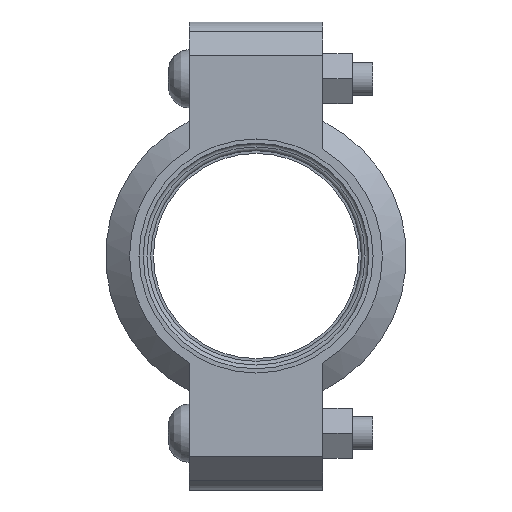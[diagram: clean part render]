
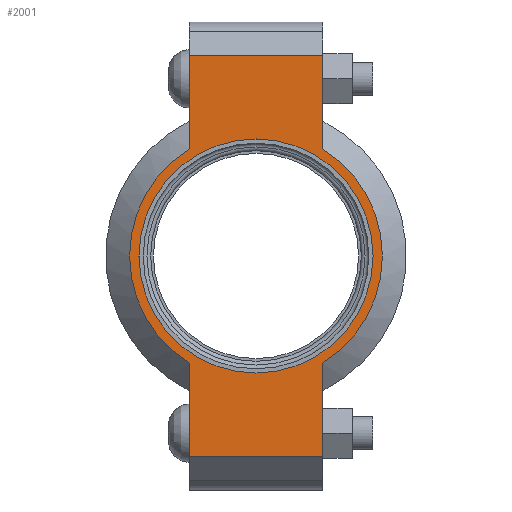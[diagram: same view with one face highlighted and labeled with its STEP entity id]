
A CAD part, left-side view. The second image highlights one B-rep face of the part: STEP entity #2001.
In plain terms, the highlighted planar face has unit normal (-1, 0, 0) as drawn and (0, 0, 1) by its records, which use the part's own axes.
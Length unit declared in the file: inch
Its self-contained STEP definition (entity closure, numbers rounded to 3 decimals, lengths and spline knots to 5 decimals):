
#134=LINE('',#3570,#233);
#142=LINE('',#3606,#241);
#149=LINE('',#3627,#248);
#158=LINE('',#3659,#257);
#159=LINE('',#3663,#258);
#160=LINE('',#3665,#259);
#233=VECTOR('',#2932,0.3937);
#241=VECTOR('',#2948,0.3937);
#248=VECTOR('',#2967,0.3937);
#257=VECTOR('',#2992,0.3937);
#258=VECTOR('',#2997,0.3937);
#259=VECTOR('',#2998,0.3937);
#319=FACE_BOUND('',#589,.T.);
#365=PLANE('',#2366);
#461=FACE_OUTER_BOUND('',#588,.T.);
#588=EDGE_LOOP('',(#1730,#1731,#1732,#1733,#1734,#1735,#1736,#1737));
#589=EDGE_LOOP('',(#1738));
#736=CIRCLE('',#2308,1.75);
#762=CIRCLE('',#2367,1.89);
#763=CIRCLE('',#2368,1.89);
#887=VERTEX_POINT('',#3386);
#930=VERTEX_POINT('',#3567);
#931=VERTEX_POINT('',#3569);
#942=VERTEX_POINT('',#3601);
#943=VERTEX_POINT('',#3605);
#950=VERTEX_POINT('',#3624);
#951=VERTEX_POINT('',#3626);
#961=VERTEX_POINT('',#3662);
#962=VERTEX_POINT('',#3664);
#1124=EDGE_CURVE('',#887,#887,#736,.T.);
#1185=EDGE_CURVE('',#931,#930,#134,.T.);
#1199=EDGE_CURVE('',#943,#942,#142,.T.);
#1209=EDGE_CURVE('',#951,#950,#149,.T.);
#1224=EDGE_CURVE('',#943,#930,#158,.T.);
#1225=EDGE_CURVE('',#942,#951,#762,.T.);
#1226=EDGE_CURVE('',#961,#950,#159,.T.);
#1227=EDGE_CURVE('',#961,#962,#160,.T.);
#1228=EDGE_CURVE('',#962,#931,#763,.T.);
#1730=ORIENTED_EDGE('',*,*,#1224,.F.);
#1731=ORIENTED_EDGE('',*,*,#1199,.T.);
#1732=ORIENTED_EDGE('',*,*,#1225,.T.);
#1733=ORIENTED_EDGE('',*,*,#1209,.T.);
#1734=ORIENTED_EDGE('',*,*,#1226,.F.);
#1735=ORIENTED_EDGE('',*,*,#1227,.T.);
#1736=ORIENTED_EDGE('',*,*,#1228,.T.);
#1737=ORIENTED_EDGE('',*,*,#1185,.T.);
#1738=ORIENTED_EDGE('',*,*,#1124,.T.);
#2001=ADVANCED_FACE('',(#461,#319),#365,.T.);
#2308=AXIS2_PLACEMENT_3D('',#3388,#2808,#2809);
#2366=AXIS2_PLACEMENT_3D('',#3660,#2993,#2994);
#2367=AXIS2_PLACEMENT_3D('',#3661,#2995,#2996);
#2368=AXIS2_PLACEMENT_3D('',#3666,#2999,#3000);
#2808=DIRECTION('center_axis',(0.,0.,-1.));
#2809=DIRECTION('ref_axis',(1.,0.,0.));
#2932=DIRECTION('',(1.,0.,0.));
#2948=DIRECTION('',(-1.,0.,0.));
#2967=DIRECTION('',(-1.,0.,0.));
#2992=DIRECTION('',(0.,-1.,0.));
#2993=DIRECTION('center_axis',(0.,0.,1.));
#2994=DIRECTION('ref_axis',(-1.,0.,0.));
#2995=DIRECTION('center_axis',(0.,0.,1.));
#2996=DIRECTION('ref_axis',(1.,0.,0.));
#2997=DIRECTION('',(0.,1.,0.));
#2998=DIRECTION('',(1.,0.,0.));
#2999=DIRECTION('center_axis',(0.,0.,1.));
#3000=DIRECTION('ref_axis',(1.,0.,0.));
#3386=CARTESIAN_POINT('',(-1.75,0.,0.94));
#3388=CARTESIAN_POINT('Origin',(0.,0.,0.94));
#3567=CARTESIAN_POINT('',(3.,-1.,0.94));
#3569=CARTESIAN_POINT('',(1.60378,-1.,0.94));
#3570=CARTESIAN_POINT('',(3.5,-1.,0.94));
#3601=CARTESIAN_POINT('',(1.60378,1.,0.94));
#3605=CARTESIAN_POINT('',(3.,1.,0.94));
#3606=CARTESIAN_POINT('',(-3.5,1.,0.94));
#3624=CARTESIAN_POINT('',(-3.,1.,0.94));
#3626=CARTESIAN_POINT('',(-1.60378,1.,0.94));
#3627=CARTESIAN_POINT('',(-3.5,1.,0.94));
#3659=CARTESIAN_POINT('',(3.,-0.5,0.94));
#3660=CARTESIAN_POINT('Origin',(0.,0.,
0.94));
#3661=CARTESIAN_POINT('Origin',(0.,0.,0.94));
#3662=CARTESIAN_POINT('',(-3.,-1.,0.94));
#3663=CARTESIAN_POINT('',(-3.,0.5,0.94));
#3664=CARTESIAN_POINT('',(-1.60378,-1.,0.94));
#3665=CARTESIAN_POINT('',(3.5,-1.,0.94));
#3666=CARTESIAN_POINT('Origin',(0.,0.,0.94));
